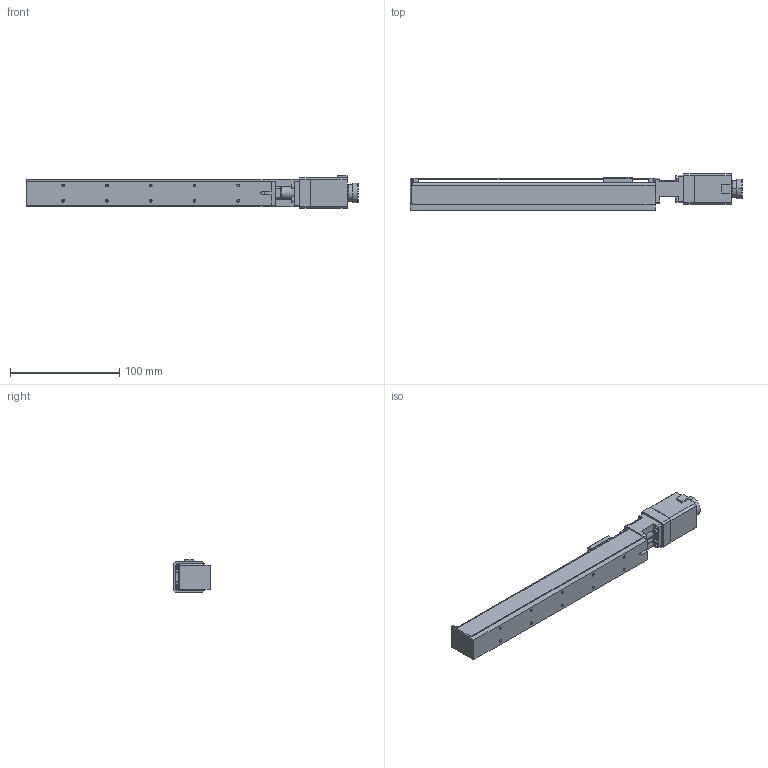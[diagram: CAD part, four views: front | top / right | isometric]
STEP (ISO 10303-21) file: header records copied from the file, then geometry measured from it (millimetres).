
FILE_DESCRIPTION (( 'STEP AP203' ), '1' );
FILE_NAME ('FAS-160-TR.STEP', '2015-08-25T05:04:00', ( '' ), ( '' ), 'SwSTEP 2.0', 'SolidWorks 2015', '' );
FILE_SCHEMA (( 'CONFIG_CONTROL_DESIGN' ));
Length unit declared in the file: millimetre
Products named in the file (1): FAS-160-TR
Bounding box: 303.5 x 33.5 x 30 mm (x, y, z)
Volume: 102939.1 mm3; surface area: 58119.2 mm2
Topology: 5 solids, 9 shells, 257 faces, 651 edges, 418 vertices
Faces by surface type: plane 147, cylinder 94, cone 14, sphere 2
Entity records: 7824 total; most frequent: CARTESIAN_POINT 1349, DIRECTION 1349, ORIENTED_EDGE 1298, EDGE_CURVE 649, AXIS2_PLACEMENT_3D 450, VECTOR 449, LINE 449, VERTEX_POINT 418
